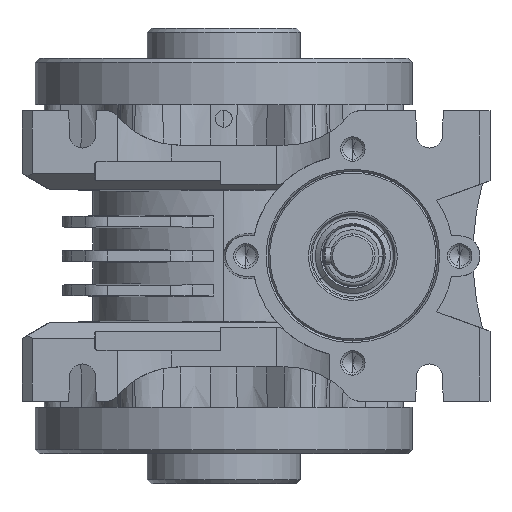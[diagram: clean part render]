
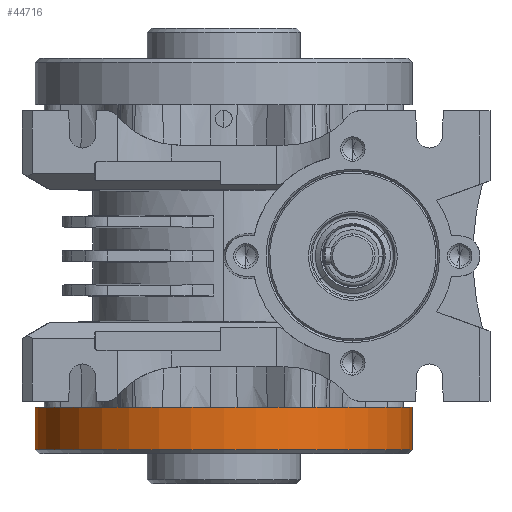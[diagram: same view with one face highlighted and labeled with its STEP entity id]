
A CAD part, left-side view. The second image highlights one B-rep face of the part: STEP entity #44716.
In plain terms, the highlighted cylindrical face has radius 46.75 mm (diameter 93.5 mm), a partial arc.
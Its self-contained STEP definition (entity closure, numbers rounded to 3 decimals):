
#270 = CIRCLE ( 'NONE', #24998, 46.75 ) ;
#4449 = DIRECTION ( 'NONE',  ( 0., 1., 0. ) ) ;
#6496 = EDGE_CURVE ( 'NONE', #31704, #56097, #270, .T. ) ;
#9512 = DIRECTION ( 'NONE',  ( 0., 0., 1. ) ) ;
#9578 = CARTESIAN_POINT ( 'NONE',  ( 0., 46.75, -37.5 ) ) ;
#10506 = CIRCLE ( 'NONE', #46983, 46.75 ) ;
#11286 = VERTEX_POINT ( 'NONE', #33374 ) ;
#13163 = CARTESIAN_POINT ( 'NONE',  ( 0., 0., -37.5 ) ) ;
#19278 = CARTESIAN_POINT ( 'NONE',  ( 0., 46.75, -48. ) ) ;
#24998 = AXIS2_PLACEMENT_3D ( 'NONE', #13163, #48158, #53696 ) ;
#28246 = VECTOR ( 'NONE', #60367, 1000. ) ;
#28544 = LINE ( 'NONE', #51039, #28246 ) ;
#30384 = EDGE_CURVE ( 'NONE', #11286, #56097, #28544, .T. ) ;
#31677 = ORIENTED_EDGE ( 'NONE', *, *, #38214, .T. ) ;
#31704 = VERTEX_POINT ( 'NONE', #9578 ) ;
#32037 = LINE ( 'NONE', #47875, #68465 ) ;
#33374 = CARTESIAN_POINT ( 'NONE',  ( 0., -46.75, -48. ) ) ;
#36304 = ORIENTED_EDGE ( 'NONE', *, *, #41507, .F. ) ;
#38214 = EDGE_CURVE ( 'NONE', #64384, #11286, #10506, .T. ) ;
#38731 = EDGE_LOOP ( 'NONE', ( #31677, #72645, #58679, #36304 ) ) ;
#41507 = EDGE_CURVE ( 'NONE', #64384, #31704, #32037, .T. ) ;
#43570 = FACE_OUTER_BOUND ( 'NONE', #38731, .T. ) ;
#44716 = ADVANCED_FACE ( 'NONE', ( #43570 ), #66059, .T. ) ;
#45463 = AXIS2_PLACEMENT_3D ( 'NONE', #55011, #48350, #4449 ) ;
#46983 = AXIS2_PLACEMENT_3D ( 'NONE', #67330, #50372, #55558 ) ;
#47875 = CARTESIAN_POINT ( 'NONE',  ( 0., 46.75, -40.5 ) ) ;
#48158 = DIRECTION ( 'NONE',  ( 0., 0., 1. ) ) ;
#48350 = DIRECTION ( 'NONE',  ( 0., 0., 1. ) ) ;
#50372 = DIRECTION ( 'NONE',  ( 0., 0., 1. ) ) ;
#50939 = CARTESIAN_POINT ( 'NONE',  ( 0., -46.75, -37.5 ) ) ;
#51039 = CARTESIAN_POINT ( 'NONE',  ( 0., -46.75, -40.5 ) ) ;
#53696 = DIRECTION ( 'NONE',  ( 0., 1., 0. ) ) ;
#55011 = CARTESIAN_POINT ( 'NONE',  ( 0., 0., -40.5 ) ) ;
#55558 = DIRECTION ( 'NONE',  ( 0., 1., 0. ) ) ;
#56097 = VERTEX_POINT ( 'NONE', #50939 ) ;
#58679 = ORIENTED_EDGE ( 'NONE', *, *, #6496, .F. ) ;
#60367 = DIRECTION ( 'NONE',  ( 0., 0., 1. ) ) ;
#64384 = VERTEX_POINT ( 'NONE', #19278 ) ;
#66059 = CYLINDRICAL_SURFACE ( 'NONE', #45463, 46.75 ) ;
#67330 = CARTESIAN_POINT ( 'NONE',  ( 0., 0., -48. ) ) ;
#68465 = VECTOR ( 'NONE', #9512, 1000. ) ;
#72645 = ORIENTED_EDGE ( 'NONE', *, *, #30384, .T. ) ;
